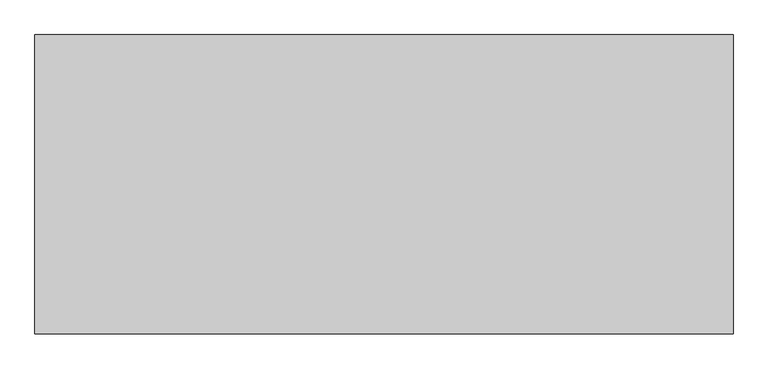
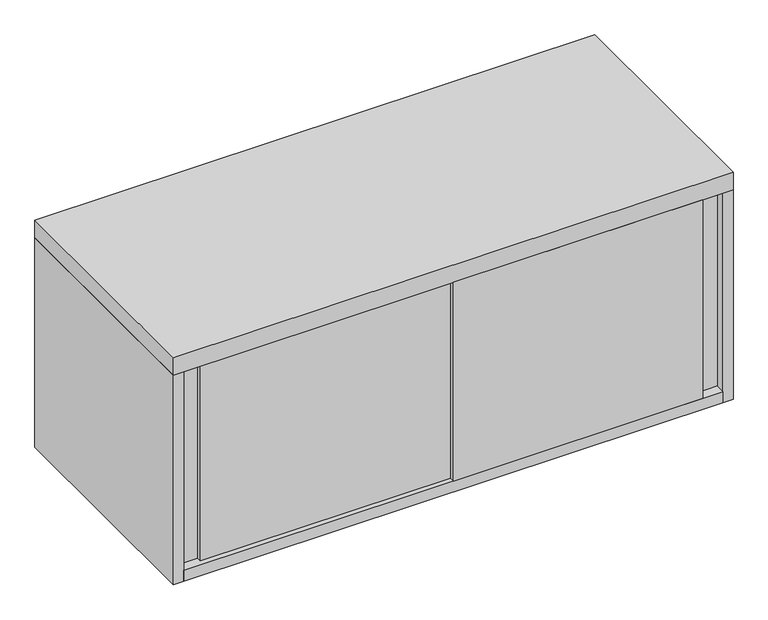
"""IFC4 building model written with IfcOpenShell, lengths in millimetres: furniture geometry, Steelcase - 900 Series - Storage - Overfile Cabinet - Flush Steel : With Sliding Door - 42W x 18H."""

from ifc_helpers import new_model, si_unit, frame, origin, place, context, project, spatial, polyline, outline, extrude, source, transform, mapped, element, save


def furniture_b11fdc04(model_context):
    return source(origin(), model_context, "Body", "SweptSolid", [
        extrude(outline(polyline([(533.4, -457.2), (533.4, -431.8), (1047.4960184, -431.8), (1047.4960184, -438.15), (1009.3960184, -438.15), (1009.3960184, -457.2), (533.4, -457.2)])), frame((0.0, 0.0, 1611.5029516), z_axis=(0.0, 0.0, 1.0), x_axis=(1.0, 0.0, 0.0)), (0.0, 0.0, 1.0), 400.05),
        extrude(outline(polyline([(19.3039998, -431.8), (533.4, -431.8), (533.4, -447.675), (57.1499992, -447.675), (57.1499992, -438.15), (19.3039998, -438.15), (19.3039998, -431.8)])), frame((0.0, 0.0, 1611.5029516), z_axis=(0.0, 0.0, 1.0), x_axis=(1.0, 0.0, 0.0)), (0.0, 0.0, 1.0), 400.05),
        extrude(outline(polyline([(1047.4960184, -6.3500002), (1047.4960184, -457.2), (19.3039998, -457.2), (19.3039998, -6.3500002), (1047.4960184, -6.3500002)])), frame((0.0, 0.0, 1589.278), z_axis=(0.0, 0.0, 1.0), x_axis=(1.0, 0.0, 0.0)), (0.0, 0.0, 1.0), 22.2249516),
        extrude(outline(polyline([(1066.8, 0.0), (1066.8, -457.2), (0.0, -457.2), (0.0, 0.0), (1066.8, 0.0)])), frame((0.0, 0.0, 2011.5529516), z_axis=(0.0, 0.0, 1.0), x_axis=(1.0, 0.0, 0.0)), (0.0, 0.0, 1.0), 34.9250484),
        extrude(outline(polyline([(1047.4960184, -6.3500002), (19.3039998, -6.3500002), (19.3039998, -457.2), (0.0, -457.2), (0.0, 0.0), (1066.8, 0.0), (1066.8, -457.2), (1047.4960184, -457.2), (1047.4960184, -6.3500002)])), frame((0.0, 0.0, 1589.278), z_axis=(0.0, 0.0, 1.0), x_axis=(1.0, 0.0, 0.0)), (0.0, 0.0, 1.0), 422.2749516),
    ])


if __name__ == "__main__":
    model = new_model("IFC4")
    model_context = context("Model", 3, world=origin())
    ifc_project = project(units=[si_unit("LENGTHUNIT", "METRE", prefix="MILLI")], contexts=[model_context])
    site = spatial("IfcSite", under=ifc_project)
    building = spatial("IfcBuilding", under=site)
    placement = place(None, origin())
    furniture_shape = furniture_b11fdc04(model_context)
    element("IfcFurniture", 1, ObjectType="Steelcase - 900 Series - Storage - Overfile Cabinet - Flush Steel : With Sliding Door - 42W x 18H", at=placement, inside=building, context=model_context, shape_type="MappedRepresentation", body=[
        mapped(furniture_shape, transform((0.0, 0.0, 0.0), x_axis=(1.0, 0.0, 0.0), y_axis=(0.0, 1.0, 0.0), z_axis=(0.0, 0.0, 1.0))),
    ])
    save(model, "model.ifc")
